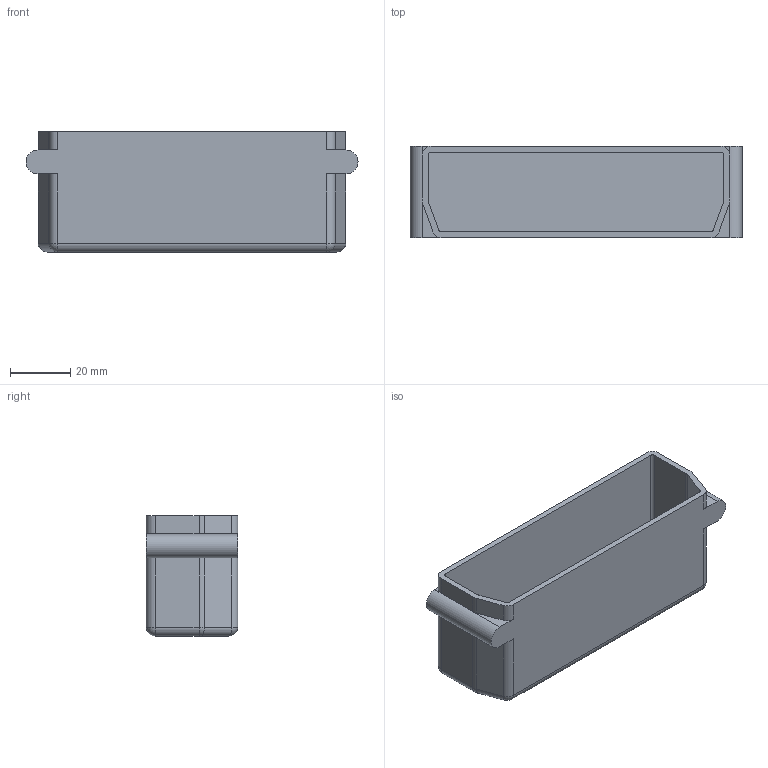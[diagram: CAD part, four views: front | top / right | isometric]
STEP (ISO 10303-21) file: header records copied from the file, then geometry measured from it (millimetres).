
FILE_DESCRIPTION (( 'STEP AP214' ), '1' );
FILE_NAME ('083171-5.STEP', '2013-01-17T08:53:40', ( '' ), ( '' ), 'SwSTEP 2.0', 'SolidWorks 2012', '' );
FILE_SCHEMA (( 'AUTOMOTIVE_DESIGN' ));
Length unit declared in the file: millimetre
Products named in the file (1): 083171-5
Bounding box: 110.5 x 30.5 x 40 mm (x, y, z)
Volume: 26560.5 mm3; surface area: 25808.1 mm2
Topology: 1 solids, 1 shells, 59 faces, 148 edges, 88 vertices
Faces by surface type: plane 27, cylinder 26, sphere 4, torus 2
Entity records: 1754 total; most frequent: DIRECTION 318, CARTESIAN_POINT 292, ORIENTED_EDGE 288, EDGE_CURVE 144, AXIS2_PLACEMENT_3D 114, LINE 90, VECTOR 90, VERTEX_POINT 88
